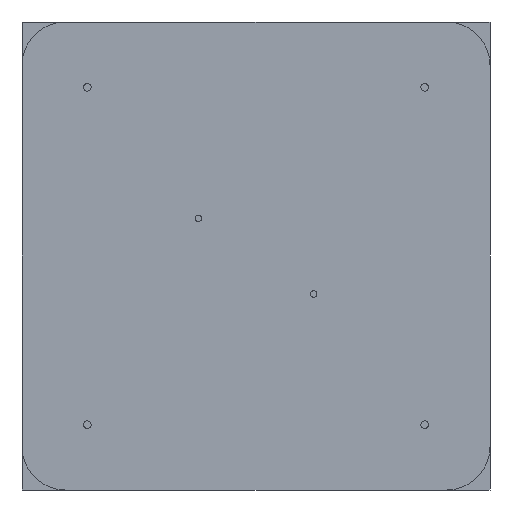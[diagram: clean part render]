
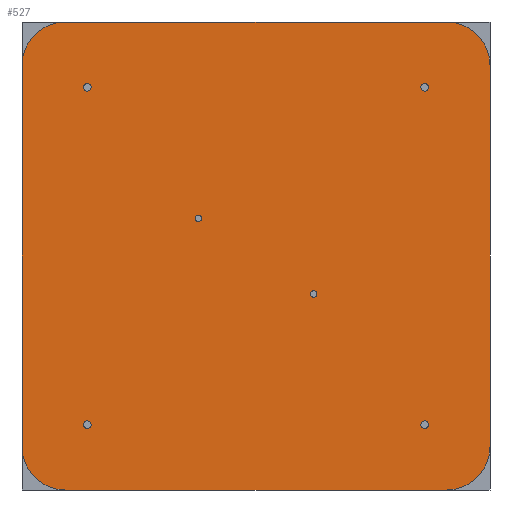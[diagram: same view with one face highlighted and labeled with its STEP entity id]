
A CAD part, left-side view. The second image highlights one B-rep face of the part: STEP entity #527.
In plain terms, the highlighted planar face has unit normal (-1, 0, 0).
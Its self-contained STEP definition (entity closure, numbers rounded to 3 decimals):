
#328=CARTESIAN_POINT('Vertex',(0.,186.75,30.)) ;
#335=CARTESIAN_POINT('Vertex',(0.,183.25,30.)) ;
#338=CARTESIAN_POINT('Axis2P3D Location',(0.,185.,30.)) ;
#350=CARTESIAN_POINT('Axis2P3D Location',(0.,185.,30.)) ;
#362=CARTESIAN_POINT('Axis2P3D Location',(0.,0.,0.)) ;
#367=CARTESIAN_POINT('Axis2P3D Location',(0.,20.,20.)) ;
#371=CARTESIAN_POINT('Vertex',(0.,0.,20.)) ;
#373=CARTESIAN_POINT('Vertex',(0.,20.,0.)) ;
#376=CARTESIAN_POINT('Line Origine',(0.,0.,107.5)) ;
#380=CARTESIAN_POINT('Vertex',(0.,0.,195.)) ;
#383=CARTESIAN_POINT('Axis2P3D Location',(0.,20.,195.)) ;
#387=CARTESIAN_POINT('Vertex',(0.,20.,215.)) ;
#390=CARTESIAN_POINT('Line Origine',(0.,107.5,215.)) ;
#394=CARTESIAN_POINT('Vertex',(0.,195.,215.)) ;
#397=CARTESIAN_POINT('Axis2P3D Location',(0.,195.,195.)) ;
#401=CARTESIAN_POINT('Vertex',(0.,215.,195.)) ;
#404=CARTESIAN_POINT('Line Origine',(0.,215.,107.5)) ;
#408=CARTESIAN_POINT('Vertex',(0.,215.,20.)) ;
#411=CARTESIAN_POINT('Axis2P3D Location',(0.,195.,20.)) ;
#415=CARTESIAN_POINT('Vertex',(0.,195.,0.)) ;
#418=CARTESIAN_POINT('Line Origine',(0.,107.5,0.)) ;
#433=CARTESIAN_POINT('Axis2P3D Location',(0.,185.,185.)) ;
#437=CARTESIAN_POINT('Vertex',(0.,183.25,185.)) ;
#439=CARTESIAN_POINT('Vertex',(0.,186.75,185.)) ;
#442=CARTESIAN_POINT('Axis2P3D Location',(0.,185.,185.)) ;
#451=CARTESIAN_POINT('Axis2P3D Location',(0.,30.,185.)) ;
#455=CARTESIAN_POINT('Vertex',(0.,28.25,185.)) ;
#457=CARTESIAN_POINT('Vertex',(0.,31.75,185.)) ;
#460=CARTESIAN_POINT('Axis2P3D Location',(0.,30.,185.)) ;
#469=CARTESIAN_POINT('Axis2P3D Location',(0.,30.,30.)) ;
#473=CARTESIAN_POINT('Vertex',(0.,28.25,30.)) ;
#475=CARTESIAN_POINT('Vertex',(0.,31.75,30.)) ;
#478=CARTESIAN_POINT('Axis2P3D Location',(0.,30.,30.)) ;
#491=CARTESIAN_POINT('Axis2P3D Location',(0.,134.,124.75)) ;
#495=CARTESIAN_POINT('Vertex',(0.,132.5,124.75)) ;
#497=CARTESIAN_POINT('Vertex',(0.,135.5,124.75)) ;
#500=CARTESIAN_POINT('Axis2P3D Location',(0.,134.,124.75)) ;
#509=CARTESIAN_POINT('Axis2P3D Location',(0.,81.,90.05)) ;
#513=CARTESIAN_POINT('Vertex',(0.,79.5,90.05)) ;
#515=CARTESIAN_POINT('Vertex',(0.,82.5,90.05)) ;
#518=CARTESIAN_POINT('Axis2P3D Location',(0.,81.,90.05)) ;
#339=DIRECTION('Axis2P3D Direction',(1.,0.,0.)) ;
#351=DIRECTION('Axis2P3D Direction',(1.,0.,0.)) ;
#363=DIRECTION('Axis2P3D Direction',(1.,0.,0.)) ;
#364=DIRECTION('Axis2P3D XDirection',(0.,1.,0.)) ;
#368=DIRECTION('Axis2P3D Direction',(1.,0.,0.)) ;
#377=DIRECTION('Vector Direction',(0.,0.,-1.)) ;
#384=DIRECTION('Axis2P3D Direction',(1.,0.,0.)) ;
#391=DIRECTION('Vector Direction',(0.,-1.,0.)) ;
#398=DIRECTION('Axis2P3D Direction',(1.,0.,0.)) ;
#405=DIRECTION('Vector Direction',(0.,0.,1.)) ;
#412=DIRECTION('Axis2P3D Direction',(1.,0.,0.)) ;
#419=DIRECTION('Vector Direction',(0.,1.,0.)) ;
#434=DIRECTION('Axis2P3D Direction',(1.,0.,0.)) ;
#443=DIRECTION('Axis2P3D Direction',(1.,0.,0.)) ;
#452=DIRECTION('Axis2P3D Direction',(1.,0.,0.)) ;
#461=DIRECTION('Axis2P3D Direction',(1.,0.,0.)) ;
#470=DIRECTION('Axis2P3D Direction',(1.,0.,0.)) ;
#479=DIRECTION('Axis2P3D Direction',(1.,0.,0.)) ;
#492=DIRECTION('Axis2P3D Direction',(1.,0.,0.)) ;
#501=DIRECTION('Axis2P3D Direction',(1.,0.,0.)) ;
#510=DIRECTION('Axis2P3D Direction',(1.,0.,0.)) ;
#519=DIRECTION('Axis2P3D Direction',(1.,0.,0.)) ;
#340=AXIS2_PLACEMENT_3D('Circle Axis2P3D',#338,#339,$) ;
#352=AXIS2_PLACEMENT_3D('Circle Axis2P3D',#350,#351,$) ;
#365=AXIS2_PLACEMENT_3D('Plane Axis2P3D',#362,#363,#364) ;
#369=AXIS2_PLACEMENT_3D('Circle Axis2P3D',#367,#368,$) ;
#385=AXIS2_PLACEMENT_3D('Circle Axis2P3D',#383,#384,$) ;
#399=AXIS2_PLACEMENT_3D('Circle Axis2P3D',#397,#398,$) ;
#413=AXIS2_PLACEMENT_3D('Circle Axis2P3D',#411,#412,$) ;
#435=AXIS2_PLACEMENT_3D('Circle Axis2P3D',#433,#434,$) ;
#444=AXIS2_PLACEMENT_3D('Circle Axis2P3D',#442,#443,$) ;
#453=AXIS2_PLACEMENT_3D('Circle Axis2P3D',#451,#452,$) ;
#462=AXIS2_PLACEMENT_3D('Circle Axis2P3D',#460,#461,$) ;
#471=AXIS2_PLACEMENT_3D('Circle Axis2P3D',#469,#470,$) ;
#480=AXIS2_PLACEMENT_3D('Circle Axis2P3D',#478,#479,$) ;
#493=AXIS2_PLACEMENT_3D('Circle Axis2P3D',#491,#492,$) ;
#502=AXIS2_PLACEMENT_3D('Circle Axis2P3D',#500,#501,$) ;
#511=AXIS2_PLACEMENT_3D('Circle Axis2P3D',#509,#510,$) ;
#520=AXIS2_PLACEMENT_3D('Circle Axis2P3D',#518,#519,$) ;
#424=ORIENTED_EDGE('',*,*,#375,.F.) ;
#425=ORIENTED_EDGE('',*,*,#382,.F.) ;
#426=ORIENTED_EDGE('',*,*,#389,.F.) ;
#427=ORIENTED_EDGE('',*,*,#396,.F.) ;
#428=ORIENTED_EDGE('',*,*,#403,.F.) ;
#429=ORIENTED_EDGE('',*,*,#410,.F.) ;
#430=ORIENTED_EDGE('',*,*,#417,.F.) ;
#431=ORIENTED_EDGE('',*,*,#422,.F.) ;
#448=ORIENTED_EDGE('',*,*,#441,.T.) ;
#449=ORIENTED_EDGE('',*,*,#446,.T.) ;
#466=ORIENTED_EDGE('',*,*,#459,.T.) ;
#467=ORIENTED_EDGE('',*,*,#464,.T.) ;
#484=ORIENTED_EDGE('',*,*,#477,.T.) ;
#485=ORIENTED_EDGE('',*,*,#482,.T.) ;
#488=ORIENTED_EDGE('',*,*,#354,.T.) ;
#489=ORIENTED_EDGE('',*,*,#342,.T.) ;
#506=ORIENTED_EDGE('',*,*,#499,.T.) ;
#507=ORIENTED_EDGE('',*,*,#504,.T.) ;
#524=ORIENTED_EDGE('',*,*,#517,.T.) ;
#525=ORIENTED_EDGE('',*,*,#522,.T.) ;
#450=FACE_BOUND('',#447,.T.) ;
#468=FACE_BOUND('',#465,.T.) ;
#486=FACE_BOUND('',#483,.T.) ;
#490=FACE_BOUND('',#487,.T.) ;
#508=FACE_BOUND('',#505,.T.) ;
#526=FACE_BOUND('',#523,.T.) ;
#378=VECTOR('Line Direction',#377,1.) ;
#392=VECTOR('Line Direction',#391,1.) ;
#406=VECTOR('Line Direction',#405,1.) ;
#420=VECTOR('Line Direction',#419,1.) ;
#527=ADVANCED_FACE('\X2\96F64EF651E04F554F53\X0\',(#432,#450,#468,#486,#490,#508,#526),#366,.F.) ;
#341=CIRCLE('generated circle',#340,1.75) ;
#353=CIRCLE('generated circle',#352,1.75) ;
#370=CIRCLE('generated circle',#369,20.) ;
#386=CIRCLE('generated circle',#385,20.) ;
#400=CIRCLE('generated circle',#399,20.) ;
#414=CIRCLE('generated circle',#413,20.) ;
#436=CIRCLE('generated circle',#435,1.75) ;
#445=CIRCLE('generated circle',#444,1.75) ;
#454=CIRCLE('generated circle',#453,1.75) ;
#463=CIRCLE('generated circle',#462,1.75) ;
#472=CIRCLE('generated circle',#471,1.75) ;
#481=CIRCLE('generated circle',#480,1.75) ;
#494=CIRCLE('generated circle',#493,1.5) ;
#503=CIRCLE('generated circle',#502,1.5) ;
#512=CIRCLE('generated circle',#511,1.5) ;
#521=CIRCLE('generated circle',#520,1.5) ;
#342=EDGE_CURVE('',#329,#336,#341,.T.) ;
#354=EDGE_CURVE('',#336,#329,#353,.T.) ;
#375=EDGE_CURVE('',#372,#374,#370,.T.) ;
#382=EDGE_CURVE('',#381,#372,#379,.T.) ;
#389=EDGE_CURVE('',#388,#381,#386,.T.) ;
#396=EDGE_CURVE('',#395,#388,#393,.T.) ;
#403=EDGE_CURVE('',#402,#395,#400,.T.) ;
#410=EDGE_CURVE('',#409,#402,#407,.T.) ;
#417=EDGE_CURVE('',#416,#409,#414,.T.) ;
#422=EDGE_CURVE('',#374,#416,#421,.T.) ;
#441=EDGE_CURVE('',#438,#440,#436,.T.) ;
#446=EDGE_CURVE('',#440,#438,#445,.T.) ;
#459=EDGE_CURVE('',#456,#458,#454,.T.) ;
#464=EDGE_CURVE('',#458,#456,#463,.T.) ;
#477=EDGE_CURVE('',#474,#476,#472,.T.) ;
#482=EDGE_CURVE('',#476,#474,#481,.T.) ;
#499=EDGE_CURVE('',#496,#498,#494,.T.) ;
#504=EDGE_CURVE('',#498,#496,#503,.T.) ;
#517=EDGE_CURVE('',#514,#516,#512,.T.) ;
#522=EDGE_CURVE('',#516,#514,#521,.T.) ;
#423=EDGE_LOOP('',(#424,#425,#426,#427,#428,#429,#430,#431)) ;
#447=EDGE_LOOP('',(#448,#449)) ;
#465=EDGE_LOOP('',(#466,#467)) ;
#483=EDGE_LOOP('',(#484,#485)) ;
#487=EDGE_LOOP('',(#488,#489)) ;
#505=EDGE_LOOP('',(#506,#507)) ;
#523=EDGE_LOOP('',(#524,#525)) ;
#432=FACE_OUTER_BOUND('',#423,.T.) ;
#379=LINE('Line',#376,#378) ;
#393=LINE('Line',#390,#392) ;
#407=LINE('Line',#404,#406) ;
#421=LINE('Line',#418,#420) ;
#366=PLANE('Plane',#365) ;
#329=VERTEX_POINT('',#328) ;
#336=VERTEX_POINT('',#335) ;
#372=VERTEX_POINT('',#371) ;
#374=VERTEX_POINT('',#373) ;
#381=VERTEX_POINT('',#380) ;
#388=VERTEX_POINT('',#387) ;
#395=VERTEX_POINT('',#394) ;
#402=VERTEX_POINT('',#401) ;
#409=VERTEX_POINT('',#408) ;
#416=VERTEX_POINT('',#415) ;
#438=VERTEX_POINT('',#437) ;
#440=VERTEX_POINT('',#439) ;
#456=VERTEX_POINT('',#455) ;
#458=VERTEX_POINT('',#457) ;
#474=VERTEX_POINT('',#473) ;
#476=VERTEX_POINT('',#475) ;
#496=VERTEX_POINT('',#495) ;
#498=VERTEX_POINT('',#497) ;
#514=VERTEX_POINT('',#513) ;
#516=VERTEX_POINT('',#515) ;
